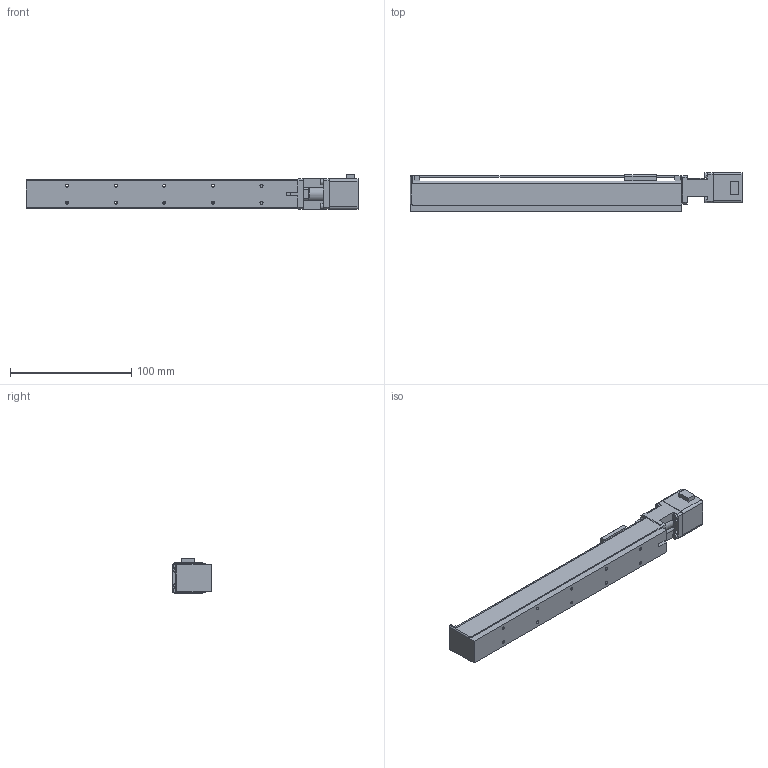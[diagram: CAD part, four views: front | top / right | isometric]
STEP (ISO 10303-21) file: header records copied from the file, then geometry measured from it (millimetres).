
FILE_DESCRIPTION (( 'STEP AP203' ), '1' );
FILE_NAME ('FAS-160-MR.STEP', '2015-08-25T05:01:14', ( '' ), ( '' ), 'SwSTEP 2.0', 'SolidWorks 2015', '' );
FILE_SCHEMA (( 'CONFIG_CONTROL_DESIGN' ));
Length unit declared in the file: millimetre
Products named in the file (1): FAS-160-MR
Bounding box: 273.5 x 32 x 28.5 mm (x, y, z)
Volume: 81768 mm3; surface area: 52557.4 mm2
Topology: 2 solids, 8 shells, 238 faces, 605 edges, 386 vertices
Faces by surface type: plane 128, cylinder 96, cone 12, sphere 2
Entity records: 7252 total; most frequent: DIRECTION 1259, CARTESIAN_POINT 1248, ORIENTED_EDGE 1198, EDGE_CURVE 599, AXIS2_PLACEMENT_3D 429, VECTOR 401, LINE 401, VERTEX_POINT 386
